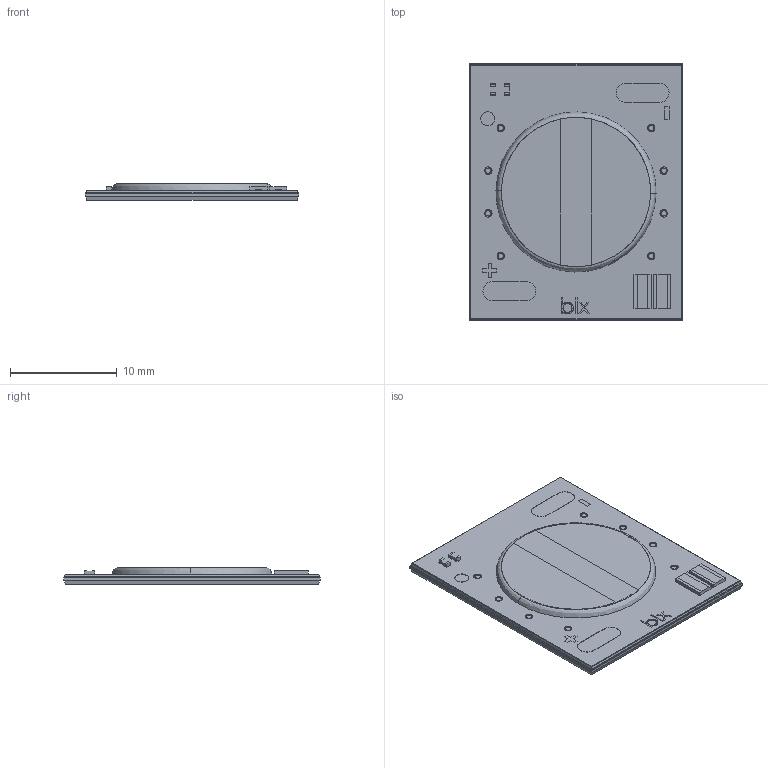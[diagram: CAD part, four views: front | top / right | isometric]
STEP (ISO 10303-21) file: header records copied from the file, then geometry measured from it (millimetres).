
FILE_DESCRIPTION (( 'STEP AP214' ), '1' );
FILE_NAME ('Single Unit.STEP', '2018-02-27T21:34:02', ( '' ), ( '' ), 'SwSTEP 2.0', 'SolidWorks 2018', '' );
FILE_SCHEMA (( 'AUTOMOTIVE_DESIGN' ));
Length unit declared in the file: millimetre
Products named in the file (2): Single Unit
Bounding box: 20 x 24 x 1.56 mm (x, y, z)
Volume: 552.1 mm3; surface area: 3622.8 mm2
Topology: 60 solids, 60 shells, 522 faces, 1167 edges, 770 vertices
Faces by surface type: plane 382, cylinder 126, bspline 14
Entity records: 21041 total; most frequent: CARTESIAN_POINT 2795, DIRECTION 2403, ORIENTED_EDGE 2334, EDGE_CURVE 1167, LINE 891, VECTOR 891, VERTEX_POINT 770, AXIS2_PLACEMENT_3D 756
